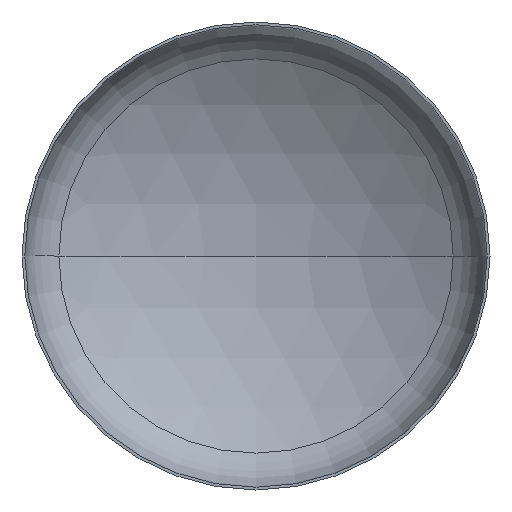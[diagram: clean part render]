
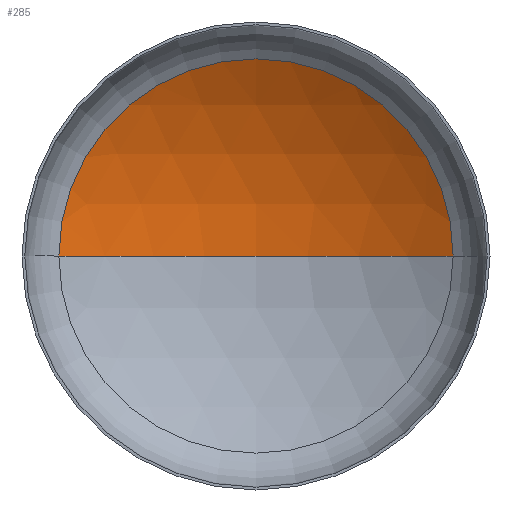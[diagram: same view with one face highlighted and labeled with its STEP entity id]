
A CAD part, front view. The second image highlights one B-rep face of the part: STEP entity #285.
In plain terms, the highlighted spherical face has radius 3200 mm.
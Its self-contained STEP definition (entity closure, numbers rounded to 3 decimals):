
#4 = CARTESIAN_POINT ( 'NONE',  ( 0., -2122.704, 0. ) ) ;
#8 = CARTESIAN_POINT ( 'NONE',  ( 0., 1077.296, 0. ) ) ;
#12 = DIRECTION ( 'NONE',  ( 1., 0., 0. ) ) ;
#16 = EDGE_LOOP ( 'NONE', ( #247, #81, #31 ) ) ;
#17 = VERTEX_POINT ( 'NONE', #368 ) ;
#24 = AXIS2_PLACEMENT_3D ( 'NONE', #4, #125, #260 ) ;
#30 = CARTESIAN_POINT ( 'NONE',  ( 0., -2122.704, 0. ) ) ;
#31 = ORIENTED_EDGE ( 'NONE', *, *, #144, .T. ) ;
#36 = DIRECTION ( 'NONE',  ( -1., 0., 0. ) ) ;
#51 = SPHERICAL_SURFACE ( 'NONE', #58, 3200. ) ;
#57 = DIRECTION ( 'NONE',  ( 0., -1., 0. ) ) ;
#58 = AXIS2_PLACEMENT_3D ( 'NONE', #30, #166, #36 ) ;
#72 = VERTEX_POINT ( 'NONE', #240 ) ;
#75 = AXIS2_PLACEMENT_3D ( 'NONE', #345, #301, #262 ) ;
#77 = AXIS2_PLACEMENT_3D ( 'NONE', #106, #57, #12 ) ;
#81 = ORIENTED_EDGE ( 'NONE', *, *, #149, .T. ) ;
#106 = CARTESIAN_POINT ( 'NONE',  ( 0., 597.858, 0. ) ) ;
#125 = DIRECTION ( 'NONE',  ( 0., 0., 1. ) ) ;
#144 = EDGE_CURVE ( 'NONE', #72, #17, #224, .T. ) ;
#149 = EDGE_CURVE ( 'NONE', #186, #72, #212, .T. ) ;
#152 = CIRCLE ( 'NONE', #24, 3200. ) ;
#166 = DIRECTION ( 'NONE',  ( 0., 0., -1. ) ) ;
#186 = VERTEX_POINT ( 'NONE', #8 ) ;
#212 = CIRCLE ( 'NONE', #75, 3200. ) ;
#224 = CIRCLE ( 'NONE', #77, 1684.797 ) ;
#240 = CARTESIAN_POINT ( 'NONE',  ( 1684.797, 597.858, 0. ) ) ;
#247 = ORIENTED_EDGE ( 'NONE', *, *, #356, .F. ) ;
#260 = DIRECTION ( 'NONE',  ( 1., 0., 0. ) ) ;
#262 = DIRECTION ( 'NONE',  ( -1., 0., 0. ) ) ;
#285 = ADVANCED_FACE ( 'NONE', ( #318 ), #51, .F. ) ;
#301 = DIRECTION ( 'NONE',  ( 0., 0., -1. ) ) ;
#318 = FACE_OUTER_BOUND ( 'NONE', #16, .T. ) ;
#345 = CARTESIAN_POINT ( 'NONE',  ( 0., -2122.704, 0. ) ) ;
#356 = EDGE_CURVE ( 'NONE', #186, #17, #152, .T. ) ;
#368 = CARTESIAN_POINT ( 'NONE',  ( -1684.797, 597.858, 0. ) ) ;
